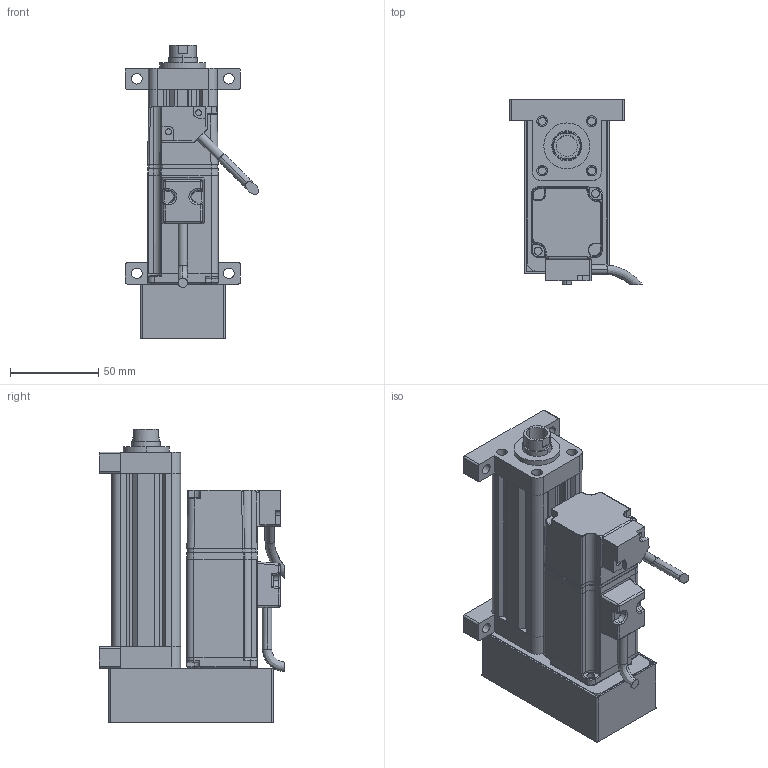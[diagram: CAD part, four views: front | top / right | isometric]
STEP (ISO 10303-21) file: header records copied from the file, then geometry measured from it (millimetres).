
FILE_DESCRIPTION (( 'STEP AP214' ), '1' );
FILE_NAME ('039-S50-D02-B-M2-C2-2.STEP', '2021-02-25T08:51:22', ( '' ), ( '' ), 'SwSTEP 2.0', 'SolidWorks 2018', '' );
FILE_SCHEMA (( 'AUTOMOTIVE_DESIGN' ));
Length unit declared in the file: millimetre
Products named in the file (8): ECMA-CX0401ES-40框號系列機種-100W低慣量系列; 039-S50-D02-B-M2-C2-2; CMC039-HDB; CMC039-DT; CMC039-QDB; CMC039-XT; CMC039-GT; CMC039-LJB
Assembly tree (7 placements, depth 2):
  039-S50-D02-B-M2-C2-2
    CMC039-GT
    CMC039-LJB
    CMC039-XT
    CMC039-DT
    ECMA-CX0401ES-40框號系列機種-100W低慣量系列
    CMC039-QDB
    CMC039-HDB
Bounding box: 75.34 x 104.89 x 166 mm (x, y, z)
Volume: 343832 mm3; surface area: 120010.3 mm2
Topology: 7 solids, 15 shells, 634 faces, 1654 edges, 1031 vertices
Faces by surface type: cylinder 260, plane 253, bspline 84, cone 37
Entity records: 25486 total; most frequent: CARTESIAN_POINT 10811, ORIENTED_EDGE 3242, DIRECTION 2571, EDGE_CURVE 1621, VERTEX_POINT 1031, AXIS2_PLACEMENT_3D 878, VECTOR 815, LINE 815
